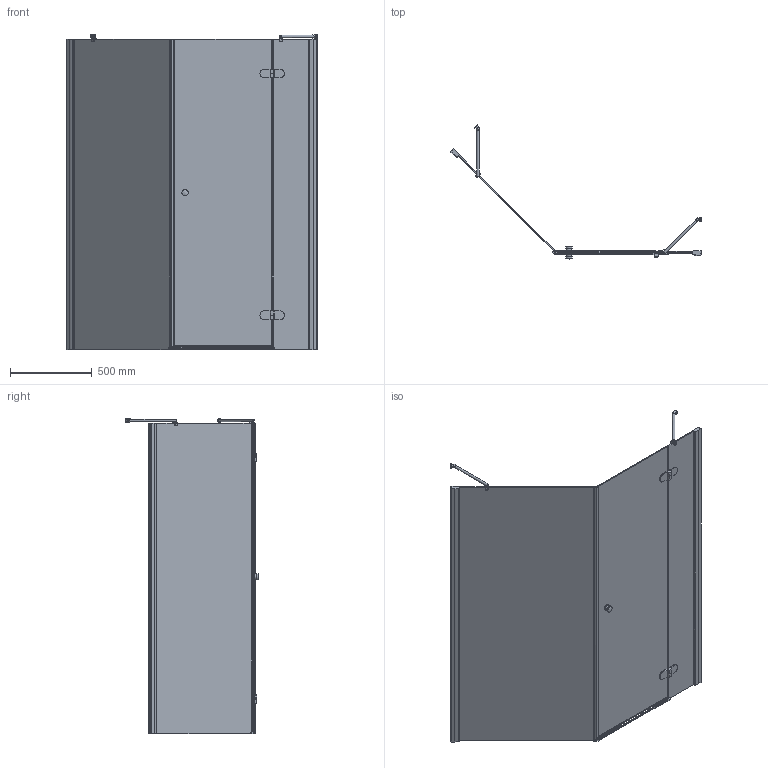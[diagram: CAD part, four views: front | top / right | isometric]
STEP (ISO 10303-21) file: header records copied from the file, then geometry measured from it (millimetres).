
FILE_DESCRIPTION(/* description */ (''),/* implementation_level */ '2;1');
FILE_NAME(/* name */ 'E:\Работа\Сергей\Душевые кабинки\! Работа\!!!!!!!!!!!!!!!!!!!\LUX FESTT GK-103P-135\LUX FESTT GK-103P-135 правая модель\LUX FESTT GK-103P-135 ПРАВАЯ-3D.stp',/* time_stamp */ '2018-07-04T20:06:02+03:00',/* author */ ('PC'),/* organization */ (''),/* preprocessor_version */ 'ST-DEVELOPER v15.2',/* originating_system */ 'Autodesk Inventor 2014',/* authorisation */ '');
FILE_SCHEMA (('CONFIG_CONTROL_DESIGN'));
Length unit declared in the file: millimetre
Products named in the file (1): LUX FESTT GK-103P-135 ПРАВАЯ-
3D
Bounding box: 1531.58 x 819.85 x 1931.5 mm (x, y, z)
Volume: 28391545.9 mm3; surface area: 7206064.7 mm2
Topology: 5 solids, 5 shells, 560 faces, 1385 edges, 852 vertices
Faces by surface type: plane 396, cylinder 134, torus 14, bspline 8, sphere 8
Full cylindrical faces by diameter (mm): 12 x2, 15 x2, 20 x4, 26 x2, 38 x4
Entity records: 17230 total; most frequent: CARTESIAN_POINT 3611, ORIENTED_EDGE 2680, DIRECTION 2667, EDGE_CURVE 1339, LINE 977, VECTOR 977, AXIS2_PLACEMENT_3D 845, VERTEX_POINT 832
